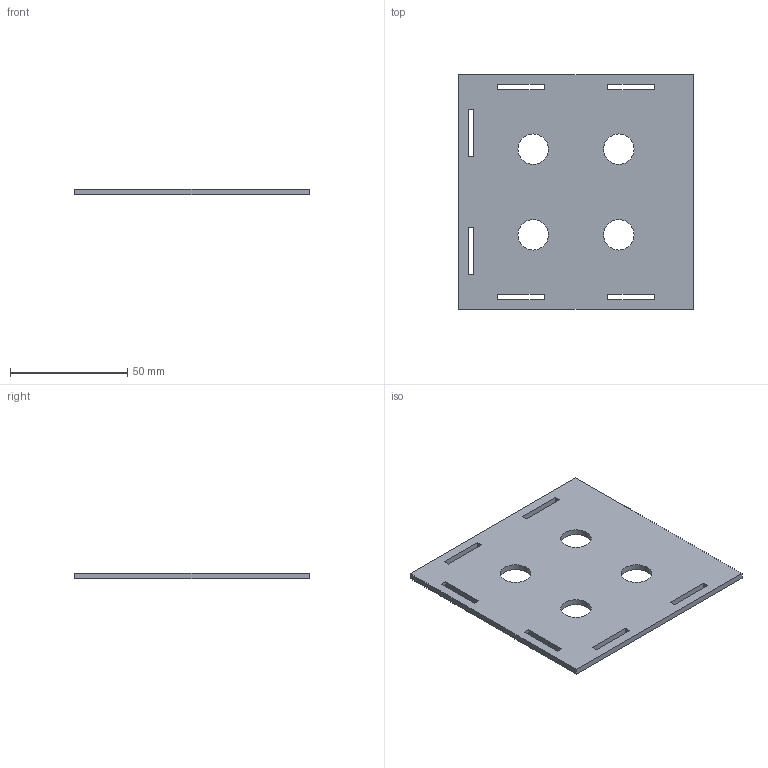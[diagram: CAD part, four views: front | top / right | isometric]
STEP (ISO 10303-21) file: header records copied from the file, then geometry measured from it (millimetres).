
FILE_DESCRIPTION(/* description */ (''),/* implementation_level */ '2;1');
FILE_NAME(/* name */ 'C:\Users\valen\Desktop\Estandar CubeSat - Programa AVES-20220531T050024Z-001\Estandar CubeSat - Programa AVES\3D - MODELS\STEP\1.Frontal.stp',/* time_stamp */ '2022-05-31T02:18:10-05:00',/* author */ ('valen'),/* organization */ (''),/* preprocessor_version */ 'ST-DEVELOPER v18.1',/* originating_system */ 'Autodesk Inventor 2022',/* authorisation */ '');
FILE_SCHEMA (('AUTOMOTIVE_DESIGN { 1 0 10303 214 3 1 1 }'));
Length unit declared in the file: millimetre
Products named in the file (1): Frontal
Bounding box: 100 x 100 x 2.5 mm (x, y, z)
Volume: 22922.7 mm3; surface area: 20421.5 mm2
Topology: 1 solids, 1 shells, 34 faces, 96 edges, 64 vertices
Faces by surface type: plane 30, cylinder 4
Full cylindrical faces by diameter (mm): 13 x4
Entity records: 1169 total; most frequent: CARTESIAN_POINT 195, ORIENTED_EDGE 192, DIRECTION 174, EDGE_CURVE 96, LINE 88, VECTOR 88, VERTEX_POINT 64, EDGE_LOOP 54
